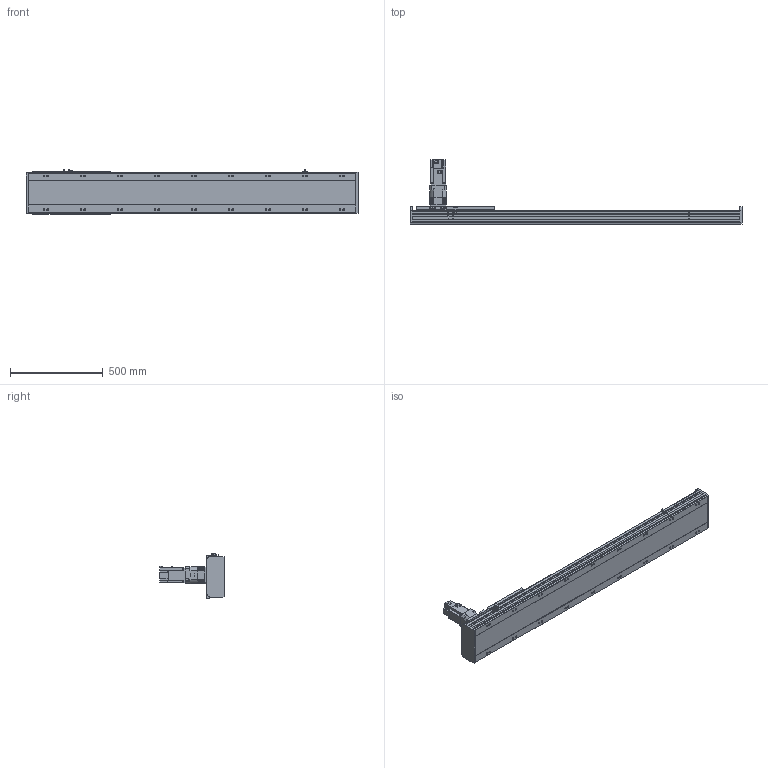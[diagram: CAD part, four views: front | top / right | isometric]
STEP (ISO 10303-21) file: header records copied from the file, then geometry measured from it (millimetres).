
FILE_DESCRIPTION(/* description */ ('STEP AP214'),/* implementation_level */ '2;1');
FILE_NAME(/* name */ 'SHS22A-L13-S1300-BC-T75-C1-N(0)',/* time_stamp */ '2022-06-15T02:26:19+02:00',/* author */ ('License CC BY-ND 4.0'),/* organization */ ('CADENAS'),/* preprocessor_version */ 'ST-DEVELOPER v18.102',/* originating_system */ 'PARTsolutions',/* authorisation */ ' ');
FILE_SCHEMA (('AUTOMOTIVE_DESIGN {1 0 10303 214 3 1 1}'));
Length unit declared in the file: millimetre
Products named in the file (7): SHS22A-L13-S1300-BC-T75-C1-N(0); PSC140-sensor; SHS22A-S1300_body2; T75-p1; SHS22A-S1300_body3; SHS22A-S1300_slider; SHS22A-L13-S1300-BC-T75-C1(0)_body
Assembly tree (13 placements, depth 2):
  SHS22A-L13-S1300-BC-T75-C1-N(0)
    PSC140-sensor  x3
    SHS22A-S1300_body2  x6
    T75-p1
    SHS22A-S1300_body3
    SHS22A-S1300_slider
    SHS22A-L13-S1300-BC-T75-C1(0)_body
Bounding box: 1794 x 350.8 x 238.4 mm (x, y, z)
Volume: 21357323.5 mm3; surface area: 2276790.4 mm2
Topology: 13 solids, 13 shells, 1809 faces, 4667 edges, 3058 vertices
Faces by surface type: plane 1316, cylinder 401, cone 83, torus 9
Full cylindrical faces by diameter (mm): 2.8 x3, 4.2 x2, 4.6 x3, 4.917 x4, 5 x4, 5.6 x24, 6 x31, 6.6 x24, 6.647 x8, 6.8 x9, 7.75 x6, 8 x3, 8.376 x18, 8.5 x18, 10 x4, 11 x4, 12 x24, 14 x18, 22 x1, 24.1 x1, 28 x1, 28.2 x1, 28.8 x1, 48.542 x1, 68 x1, 70 x1, 78 x1, 80 x2
Entity records: 29410 total; most frequent: CARTESIAN_POINT 5207, DIRECTION 4973, ORIENTED_EDGE 4584, EDGE_CURVE 2292, AXIS2_PLACEMENT_3D 1706, VERTEX_POINT 1630, LINE 1561, VECTOR 1561
